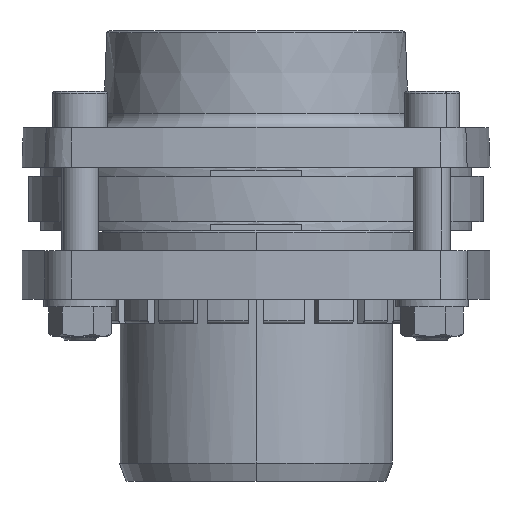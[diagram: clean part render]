
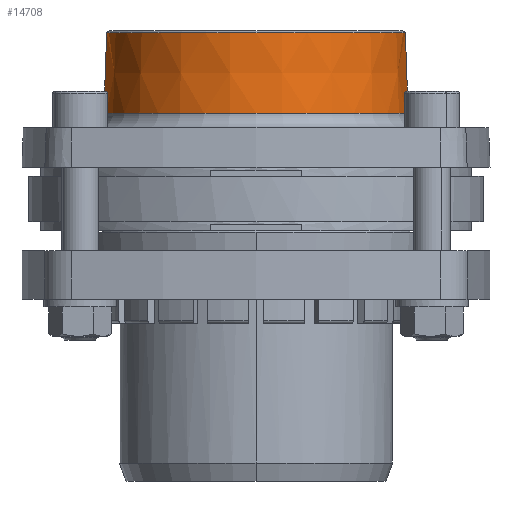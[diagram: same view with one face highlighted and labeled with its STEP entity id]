
A CAD part, front view. The second image highlights one B-rep face of the part: STEP entity #14708.
In plain terms, the highlighted conical face has half-angle 2 degrees and reference radius 50.325 mm.
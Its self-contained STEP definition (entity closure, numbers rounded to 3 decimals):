
#1527 = ORIENTED_EDGE ( 'NONE', *, *, #4972, .T. ) ;
#1528 = ORIENTED_EDGE ( 'NONE', *, *, #4971, .T. ) ;
#1529 = ORIENTED_EDGE ( 'NONE', *, *, #4976, .T. ) ;
#1530 = ORIENTED_EDGE ( 'NONE', *, *, #4970, .F. ) ;
#3584 = DIRECTION ( 'NONE',  ( 1., 0., 0. ) ) ;
#3585 = FACE_OUTER_BOUND ( 'NONE', #15504, .T. ) ;
#3587 = DIRECTION ( 'NONE',  ( 0., 0., -1. ) ) ;
#3589 = CARTESIAN_POINT ( 'NONE',  ( 0., 0., 31. ) ) ;
#4398 = CARTESIAN_POINT ( 'NONE',  ( 49.228, 0., 62.416 ) ) ;
#4399 = CARTESIAN_POINT ( 'NONE',  ( -49.228, 0., 62.416 ) ) ;
#4437 = CARTESIAN_POINT ( 'NONE',  ( 50.156, 0., 35.826 ) ) ;
#4438 = CARTESIAN_POINT ( 'NONE',  ( -50.156, 0., 35.826 ) ) ;
#4970 = EDGE_CURVE ( 'NONE', #15086, #15125, #13297, .T. ) ;
#4971 = EDGE_CURVE ( 'NONE', #15087, #15126, #13296, .T. ) ;
#4972 = EDGE_CURVE ( 'NONE', #15086, #15087, #10875, .T. ) ;
#4976 = EDGE_CURVE ( 'NONE', #15126, #15125, #10881, .T. ) ;
#10868 = VECTOR ( 'NONE', #13302, 1000. ) ;
#10872 = VECTOR ( 'NONE', #13304, 1000. ) ;
#10875 = CIRCLE ( 'NONE', #10878, 49.228 ) ;
#10878 = AXIS2_PLACEMENT_3D ( 'NONE', #13305, #13306, #13307 ) ;
#10881 = CIRCLE ( 'NONE', #10886, 50.156 ) ;
#10886 = AXIS2_PLACEMENT_3D ( 'NONE', #13320, #13321, #13322 ) ;
#12232 = CONICAL_SURFACE ( 'NONE', #12233, 50.325, 0.035 ) ;
#12233 = AXIS2_PLACEMENT_3D ( 'NONE', #3589, #3587, #3584 ) ;
#13290 = CARTESIAN_POINT ( 'NONE',  ( 50.325, 0., 31. ) ) ;
#13296 = LINE ( 'NONE', #13303, #10872 ) ;
#13297 = LINE ( 'NONE', #13290, #10868 ) ;
#13302 = DIRECTION ( 'NONE',  ( 0.035, 0., -0.999 ) ) ;
#13303 = CARTESIAN_POINT ( 'NONE',  ( -50.325, 0., 31. ) ) ;
#13304 = DIRECTION ( 'NONE',  ( -0.035, 0., -0.999 ) ) ;
#13305 = CARTESIAN_POINT ( 'NONE',  ( 0., 0., 62.416 ) ) ;
#13306 = DIRECTION ( 'NONE',  ( 0., 0., -1. ) ) ;
#13307 = DIRECTION ( 'NONE',  ( -1., 0., 0. ) ) ;
#13320 = CARTESIAN_POINT ( 'NONE',  ( 0., 0., 35.826 ) ) ;
#13321 = DIRECTION ( 'NONE',  ( 0., 0., 1. ) ) ;
#13322 = DIRECTION ( 'NONE',  ( 1., 0., 0. ) ) ;
#14708 = ADVANCED_FACE ( 'NONE', ( #3585 ), #12232, .T. ) ;
#15086 = VERTEX_POINT ( 'NONE', #4398 ) ;
#15087 = VERTEX_POINT ( 'NONE', #4399 ) ;
#15125 = VERTEX_POINT ( 'NONE', #4437 ) ;
#15126 = VERTEX_POINT ( 'NONE', #4438 ) ;
#15504 = EDGE_LOOP ( 'NONE', ( #1527, #1528, #1529, #1530 ) ) ;
